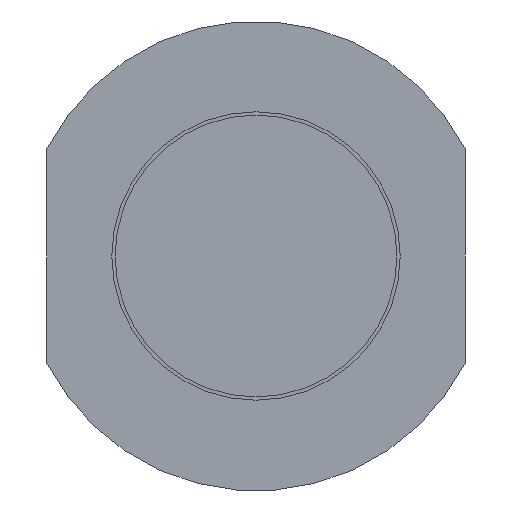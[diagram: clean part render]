
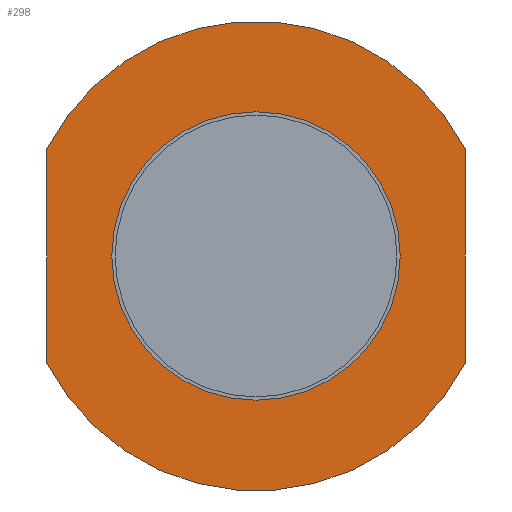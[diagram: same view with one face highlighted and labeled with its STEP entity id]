
A CAD part, front view. The second image highlights one B-rep face of the part: STEP entity #298.
In plain terms, the highlighted planar face has unit normal (0, -1, 0).
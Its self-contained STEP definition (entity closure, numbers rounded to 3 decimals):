
#73=CARTESIAN_POINT('',(16.829,-45.919,11.399));
#74=VERTEX_POINT('',#73);
#83=CARTESIAN_POINT('',(16.829,-45.919,-11.399));
#84=VERTEX_POINT('',#83);
#85=CARTESIAN_POINT('',(16.829,-45.919,-11.399));
#86=DIRECTION('',(0.0,0.0,1.0));
#87=VECTOR('',#86,22.798);
#88=LINE('',#85,#87);
#89=EDGE_CURVE('',#84,#74,#88,.T.);
#113=CARTESIAN_POINT('',(-27.671,-45.919,-11.399));
#114=VERTEX_POINT('',#113);
#123=CARTESIAN_POINT('',(-27.671,-45.919,11.399));
#124=VERTEX_POINT('',#123);
#125=CARTESIAN_POINT('',(-27.671,-45.919,11.399));
#126=DIRECTION('',(0.0,0.0,-1.0));
#127=VECTOR('',#126,22.798);
#128=LINE('',#125,#127);
#129=EDGE_CURVE('',#124,#114,#128,.T.);
#189=CARTESIAN_POINT('',(-5.421,-45.919,0.0));
#190=DIRECTION('',(0.0,1.0,0.0));
#191=DIRECTION('',(-1.0,0.0,0.0));
#192=AXIS2_PLACEMENT_3D('',#189,#190,#191);
#193=CIRCLE('',#192,25.);
#194=EDGE_CURVE('',#84,#114,#193,.T.);
#263=CARTESIAN_POINT('',(-20.771,-45.919,0.0));
#264=VERTEX_POINT('',#263);
#265=CARTESIAN_POINT('',(-5.421,-45.919,0.0));
#266=DIRECTION('',(0.0,1.0,0.0));
#267=DIRECTION('',(-1.0,0.0,0.0));
#268=AXIS2_PLACEMENT_3D('',#265,#266,#267);
#269=CIRCLE('',#268,15.35);
#270=EDGE_CURVE('',#264,#264,#269,.T.);
#278=CARTESIAN_POINT('',(-25.596,-45.919,0.0));
#279=DIRECTION('',(0.0,-1.0,0.0));
#280=DIRECTION('',(0.0,0.0,-1.0));
#281=AXIS2_PLACEMENT_3D('',#278,#279,#280);
#282=PLANE('',#281);
#283=ORIENTED_EDGE('',*,*,#89,.T.);
#284=CARTESIAN_POINT('',(-5.421,-45.919,0.0));
#285=DIRECTION('',(0.0,1.0,0.0));
#286=DIRECTION('',(-1.0,0.0,0.0));
#287=AXIS2_PLACEMENT_3D('',#284,#285,#286);
#288=CIRCLE('',#287,25.);
#289=EDGE_CURVE('',#124,#74,#288,.T.);
#290=ORIENTED_EDGE('',*,*,#289,.F.);
#291=ORIENTED_EDGE('',*,*,#129,.T.);
#292=ORIENTED_EDGE('',*,*,#194,.F.);
#293=EDGE_LOOP('',(#283,#290,#291,#292));
#294=FACE_OUTER_BOUND('',#293,.T.);
#295=ORIENTED_EDGE('',*,*,#270,.T.);
#296=EDGE_LOOP('',(#295));
#297=FACE_BOUND('',#296,.T.);
#298=ADVANCED_FACE('',(#294,#297),#282,.T.);
